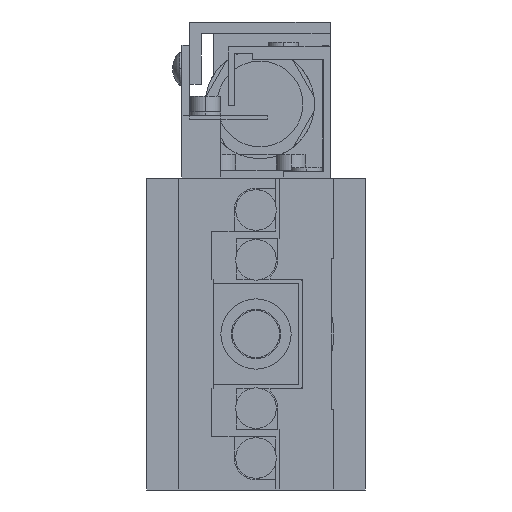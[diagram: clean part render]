
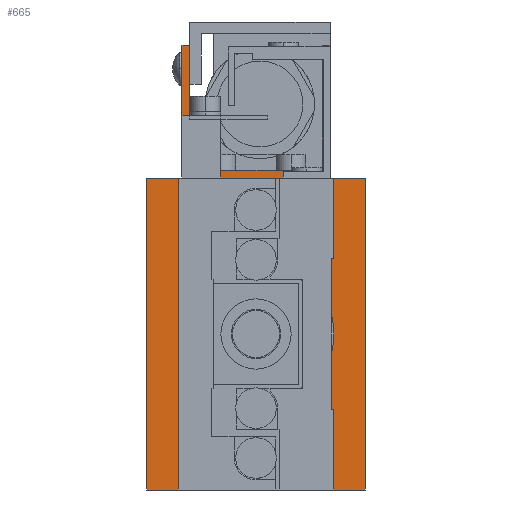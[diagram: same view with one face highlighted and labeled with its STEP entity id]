
A CAD part, left-side view. The second image highlights one B-rep face of the part: STEP entity #665.
In plain terms, the highlighted planar face has unit normal (-1, 0, 0).
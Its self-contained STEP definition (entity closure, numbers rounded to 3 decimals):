
#665=ADVANCED_FACE('',(#1699),#1700,.F.);
#1699=FACE_OUTER_BOUND('',#3056,.T.);
#1700=PLANE('',#3057);
#3056=EDGE_LOOP('',(#6441,#6442,#6443,#6444,#6445,#6446,#6447,#6448,#6449,#6450,#6451,#6452,#6453,#6454,#6455,#6456,#6457,#6458,#6459,#6460,#6461,#6462,#6463,#6464,#6465,#6466,#6467,#6468));
#3057=AXIS2_PLACEMENT_3D('',#6469,#6470,#6471);
#6441=ORIENTED_EDGE('',*,*,#9751,.F.);
#6442=ORIENTED_EDGE('',*,*,#9752,.T.);
#6443=ORIENTED_EDGE('',*,*,#9603,.F.);
#6444=ORIENTED_EDGE('',*,*,#9753,.F.);
#6445=ORIENTED_EDGE('',*,*,#9754,.F.);
#6446=ORIENTED_EDGE('',*,*,#9741,.F.);
#6447=ORIENTED_EDGE('',*,*,#9745,.F.);
#6448=ORIENTED_EDGE('',*,*,#9693,.F.);
#6449=ORIENTED_EDGE('',*,*,#9714,.F.);
#6450=ORIENTED_EDGE('',*,*,#9720,.F.);
#6451=ORIENTED_EDGE('',*,*,#9703,.F.);
#6452=ORIENTED_EDGE('',*,*,#9734,.F.);
#6453=ORIENTED_EDGE('',*,*,#9755,.F.);
#6454=ORIENTED_EDGE('',*,*,#9756,.F.);
#6455=ORIENTED_EDGE('',*,*,#9599,.F.);
#6456=ORIENTED_EDGE('',*,*,#9757,.F.);
#6457=ORIENTED_EDGE('',*,*,#9758,.F.);
#6458=ORIENTED_EDGE('',*,*,#9750,.T.);
#6459=ORIENTED_EDGE('',*,*,#9759,.T.);
#6460=ORIENTED_EDGE('',*,*,#9760,.F.);
#6461=ORIENTED_EDGE('',*,*,#9612,.T.);
#6462=ORIENTED_EDGE('',*,*,#9653,.T.);
#6463=ORIENTED_EDGE('',*,*,#9686,.F.);
#6464=ORIENTED_EDGE('',*,*,#9761,.F.);
#6465=ORIENTED_EDGE('',*,*,#9762,.T.);
#6466=ORIENTED_EDGE('',*,*,#9561,.T.);
#6467=ORIENTED_EDGE('',*,*,#9763,.F.);
#6468=ORIENTED_EDGE('',*,*,#9645,.F.);
#6469=CARTESIAN_POINT('',(57.5,-4.,20.0));
#6470=DIRECTION('',(1.0,0.0,0.));
#6471=DIRECTION('',(0.0,-1.0,0.0));
#9561=EDGE_CURVE('',#11688,#11692,#11694,.T.);
#9599=EDGE_CURVE('',#11764,#11766,#11767,.T.);
#9603=EDGE_CURVE('',#11772,#11774,#11775,.T.);
#9612=EDGE_CURVE('',#11791,#11792,#11793,.T.);
#9645=EDGE_CURVE('',#11848,#11849,#11850,.T.);
#9653=EDGE_CURVE('',#11792,#11862,#11864,.T.);
#9686=EDGE_CURVE('',#11914,#11862,#11916,.T.);
#9693=EDGE_CURVE('',#11925,#11926,#11927,.T.);
#9703=EDGE_CURVE('',#11945,#11946,#11947,.T.);
#9714=EDGE_CURVE('',#11965,#11925,#11967,.T.);
#9720=EDGE_CURVE('',#11946,#11965,#11975,.T.);
#9734=EDGE_CURVE('',#11997,#11945,#11999,.T.);
#9741=EDGE_CURVE('',#12009,#12010,#12011,.T.);
#9745=EDGE_CURVE('',#11926,#12009,#12016,.T.);
#9750=EDGE_CURVE('',#11692,#11688,#12021,.T.);
#9751=EDGE_CURVE('',#12022,#11848,#12023,.T.);
#9752=EDGE_CURVE('',#12022,#11774,#12024,.T.);
#9753=EDGE_CURVE('',#12025,#11772,#12026,.T.);
#9754=EDGE_CURVE('',#12010,#12025,#12027,.T.);
#9755=EDGE_CURVE('',#12028,#11997,#12029,.T.);
#9756=EDGE_CURVE('',#11766,#12028,#12030,.T.);
#9757=EDGE_CURVE('',#12031,#11764,#12032,.T.);
#9758=EDGE_CURVE('',#11692,#12031,#12033,.T.);
#9759=EDGE_CURVE('',#11688,#12034,#12035,.T.);
#9760=EDGE_CURVE('',#11791,#12034,#12036,.T.);
#9761=EDGE_CURVE('',#12037,#11914,#12038,.T.);
#9762=EDGE_CURVE('',#12037,#11688,#12039,.T.);
#9763=EDGE_CURVE('',#11849,#11692,#12040,.T.);
#11688=VERTEX_POINT('',#14789);
#11692=VERTEX_POINT('',#14794);
#11694=CIRCLE('',#14797,10.0);
#11764=VERTEX_POINT('',#14883);
#11766=VERTEX_POINT('',#14886);
#11767=LINE('',#14887,#14888);
#11772=VERTEX_POINT('',#14895);
#11774=VERTEX_POINT('',#14898);
#11775=LINE('',#14899,#14900);
#11791=VERTEX_POINT('',#14924);
#11792=VERTEX_POINT('',#14925);
#11793=LINE('',#14926,#14927);
#11848=VERTEX_POINT('',#15009);
#11849=VERTEX_POINT('',#15010);
#11850=LINE('',#15011,#15012);
#11862=VERTEX_POINT('',#15029);
#11864=LINE('',#15032,#15033);
#11914=VERTEX_POINT('',#15107);
#11916=LINE('',#15110,#15111);
#11925=VERTEX_POINT('',#15123);
#11926=VERTEX_POINT('',#15124);
#11927=LINE('',#15125,#15126);
#11945=VERTEX_POINT('',#15149);
#11946=VERTEX_POINT('',#15150);
#11947=LINE('',#15151,#15152);
#11965=VERTEX_POINT('',#15178);
#11967=LINE('',#15181,#15182);
#11975=LINE('',#15194,#15195);
#11997=VERTEX_POINT('',#15228);
#11999=LINE('',#15231,#15232);
#12009=VERTEX_POINT('',#15247);
#12010=VERTEX_POINT('',#15248);
#12011=LINE('',#15249,#15250);
#12016=LINE('',#15258,#15259);
#12021=CIRCLE('',#15265,10.0);
#12022=VERTEX_POINT('',#15266);
#12023=LINE('',#15267,#15268);
#12024=LINE('',#15269,#15270);
#12025=VERTEX_POINT('',#15271);
#12026=LINE('',#15272,#15273);
#12027=LINE('',#15274,#15275);
#12028=VERTEX_POINT('',#15276);
#12029=LINE('',#15277,#15278);
#12030=LINE('',#15279,#15280);
#12031=VERTEX_POINT('',#15281);
#12032=LINE('',#15282,#15283);
#12033=LINE('',#15284,#15285);
#12034=VERTEX_POINT('',#15286);
#12035=LINE('',#15287,#15288);
#12036=LINE('',#15289,#15290);
#12037=VERTEX_POINT('',#15291);
#12038=LINE('',#15292,#15293);
#12039=LINE('',#15294,#15295);
#12040=LINE('',#15296,#15297);
#14789=CARTESIAN_POINT('',(57.5,10.0,10.0));
#14794=CARTESIAN_POINT('',(57.5,10.0,-10.0));
#14797=AXIS2_PLACEMENT_3D('',#18165,#18166,#18167);
#14883=CARTESIAN_POINT('',(57.5,18.5,-20.0));
#14886=CARTESIAN_POINT('',(57.5,24.0,-20.0));
#14887=CARTESIAN_POINT('',(57.5,-4.,-20.0));
#14888=VECTOR('',#18245,1000.0);
#14895=CARTESIAN_POINT('',(57.5,-4.,-20.0));
#14898=CARTESIAN_POINT('',(57.5,1.5,-20.0));
#14899=CARTESIAN_POINT('',(57.5,-4.,-20.0));
#14900=VECTOR('',#18249,1000.0);
#14924=CARTESIAN_POINT('',(57.5,18.5,20.0));
#14925=CARTESIAN_POINT('',(57.5,1.5,20.0));
#14926=CARTESIAN_POINT('',(57.5,19.5,20.0));
#14927=VECTOR('',#18258,1000.0);
#15009=CARTESIAN_POINT('',(57.5,7.75,-14.25));
#15010=CARTESIAN_POINT('',(57.5,7.75,-10.0));
#15011=CARTESIAN_POINT('',(57.5,7.75,-14.25));
#15012=VECTOR('',#18301,1000.0);
#15029=CARTESIAN_POINT('',(57.5,1.5,14.25));
#15032=CARTESIAN_POINT('',(57.5,1.5,20.0));
#15033=VECTOR('',#18311,1000.0);
#15107=CARTESIAN_POINT('',(57.5,7.75,14.25));
#15110=CARTESIAN_POINT('',(57.5,7.75,14.25));
#15111=VECTOR('',#18358,1000.0);
#15123=CARTESIAN_POINT('',(57.5,1.5,21.));
#15124=CARTESIAN_POINT('',(57.5,1.5,37.));
#15125=CARTESIAN_POINT('',(57.5,1.5,21.));
#15126=VECTOR('',#18371,1000.0);
#15149=CARTESIAN_POINT('',(57.5,19.5,37.));
#15150=CARTESIAN_POINT('',(57.5,18.5,37.));
#15151=CARTESIAN_POINT('',(57.5,19.5,37.));
#15152=VECTOR('',#18389,1000.0);
#15178=CARTESIAN_POINT('',(57.5,18.5,21.));
#15181=CARTESIAN_POINT('',(57.5,18.5,21.));
#15182=VECTOR('',#18402,1000.0);
#15194=CARTESIAN_POINT('',(57.5,18.5,37.));
#15195=VECTOR('',#18410,1000.0);
#15228=CARTESIAN_POINT('',(57.5,19.5,20.0));
#15231=CARTESIAN_POINT('',(57.5,19.5,20.));
#15232=VECTOR('',#18426,1000.0);
#15247=CARTESIAN_POINT('',(57.5,0.5,37.));
#15248=CARTESIAN_POINT('',(57.5,0.5,20.));
#15249=CARTESIAN_POINT('',(57.5,0.5,37.));
#15250=VECTOR('',#18435,1000.0);
#15258=CARTESIAN_POINT('',(57.5,1.5,37.));
#15259=VECTOR('',#18439,1000.0);
#15265=AXIS2_PLACEMENT_3D('',#18450,#18451,#18452);
#15266=CARTESIAN_POINT('',(57.5,1.5,-14.25));
#15267=CARTESIAN_POINT('',(57.5,0.5,-14.25));
#15268=VECTOR('',#18453,1000.0);
#15269=CARTESIAN_POINT('',(57.5,1.5,20.0));
#15270=VECTOR('',#18454,1000.0);
#15271=CARTESIAN_POINT('',(57.5,-4.,20.0));
#15272=CARTESIAN_POINT('',(57.5,-4.,20.0));
#15273=VECTOR('',#18455,1000.0);
#15274=CARTESIAN_POINT('',(57.5,24.0,20.0));
#15275=VECTOR('',#18456,1000.0);
#15276=CARTESIAN_POINT('',(57.5,24.0,20.0));
#15277=CARTESIAN_POINT('',(57.5,24.0,20.0));
#15278=VECTOR('',#18457,1000.0);
#15279=CARTESIAN_POINT('',(57.5,24.0,-20.0));
#15280=VECTOR('',#18458,1000.0);
#15281=CARTESIAN_POINT('',(57.5,18.5,-10.0));
#15282=CARTESIAN_POINT('',(57.5,18.5,20.0));
#15283=VECTOR('',#18459,1000.0);
#15284=CARTESIAN_POINT('',(57.5,7.75,-10.0));
#15285=VECTOR('',#18460,1000.0);
#15286=CARTESIAN_POINT('',(57.5,18.5,10.0));
#15287=CARTESIAN_POINT('',(57.5,19.5,10.0));
#15288=VECTOR('',#18461,1000.0);
#15289=CARTESIAN_POINT('',(57.5,18.5,20.0));
#15290=VECTOR('',#18462,1000.0);
#15291=CARTESIAN_POINT('',(57.5,7.75,10.0));
#15292=CARTESIAN_POINT('',(57.5,7.75,10.0));
#15293=VECTOR('',#18463,1000.0);
#15294=CARTESIAN_POINT('',(57.5,19.5,10.0));
#15295=VECTOR('',#18464,1000.0);
#15296=CARTESIAN_POINT('',(57.5,7.75,-10.0));
#15297=VECTOR('',#18465,1000.0);
#18165=CARTESIAN_POINT('',(57.5,10.0,0.));
#18166=DIRECTION('',(1.0,0.0,0.));
#18167=DIRECTION('',(0.,0.0,-1.0));
#18245=DIRECTION('',(0.0,1.0,0.0));
#18249=DIRECTION('',(0.0,1.0,0.0));
#18258=DIRECTION('',(0.0,-1.0,0.0));
#18301=DIRECTION('',(0.0,0.0,1.0));
#18311=DIRECTION('',(0.0,0.0,-1.0));
#18358=DIRECTION('',(0.0,-1.0,0.0));
#18371=DIRECTION('',(0.,0.,1.0));
#18389=DIRECTION('',(0.,-1.0,0.));
#18402=DIRECTION('',(0.,-1.0,0.));
#18410=DIRECTION('',(0.,0.,-1.0));
#18426=DIRECTION('',(0.,0.,1.0));
#18435=DIRECTION('',(0.,0.,-1.0));
#18439=DIRECTION('',(0.,-1.0,0.));
#18450=CARTESIAN_POINT('',(57.5,10.0,0.));
#18451=DIRECTION('',(1.0,0.0,0.));
#18452=DIRECTION('',(0.,0.0,-1.0));
#18453=DIRECTION('',(0.0,1.0,0.0));
#18454=DIRECTION('',(0.0,0.0,-1.0));
#18455=DIRECTION('',(0.,0.0,-1.0));
#18456=DIRECTION('',(0.0,-1.0,0.0));
#18457=DIRECTION('',(0.0,-1.0,0.0));
#18458=DIRECTION('',(0.,0.0,1.0));
#18459=DIRECTION('',(0.0,0.0,-1.0));
#18460=DIRECTION('',(0.0,1.0,0.0));
#18461=DIRECTION('',(0.0,1.0,0.0));
#18462=DIRECTION('',(0.0,0.0,-1.0));
#18463=DIRECTION('',(0.0,0.0,1.0));
#18464=DIRECTION('',(0.0,1.0,0.0));
#18465=DIRECTION('',(0.0,1.0,0.0));
